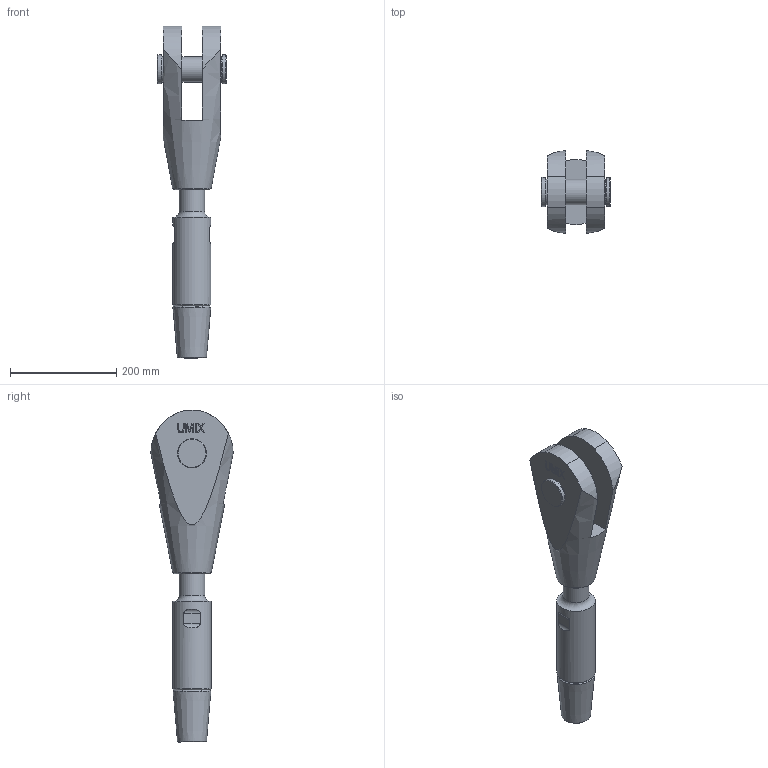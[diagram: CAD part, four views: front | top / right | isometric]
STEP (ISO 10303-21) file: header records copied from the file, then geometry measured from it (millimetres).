
FILE_DESCRIPTION(/* description */ (''),/* implementation_level */ '2;1');
FILE_NAME(/* name */ 'G:\Engineering\700 CAD\Internet-PX-1-step-igs-dxf\520-GAK-ADA-Arbeitsdateien\520-048-GAK-ADA.stp',/* time_stamp */ '2020-07-03T13:10:21+02:00',/* author */ ('schwarz'),/* organization */ (''),/* preprocessor_version */ 'ST-DEVELOPER v16.1',/* originating_system */ 'Autodesk Inventor 2016',/* authorisation */ '');
FILE_SCHEMA (('AUTOMOTIVE_DESIGN { 1 0 10303 214 3 1 1 }'));
Length unit declared in the file: centimetre
Products named in the file (1): 520-048-GAK-ADA-Kunde
Bounding box: 130.44 x 155.43 x 626.24 mm (x, y, z)
Volume: 3484868 mm3; surface area: 274432.4 mm2
Topology: 2 solids, 4 shells, 197 faces, 509 edges, 338 vertices
Faces by surface type: plane 139, cylinder 22, bspline 21, cone 14, torus 1
Full cylindrical faces by diameter (mm): 10.106 x1, 12 x1, 13.5 x1, 23.12 x1, 48 x2, 50.5 x1, 51 x2, 55 x2, 72 x1
Entity records: 6164 total; most frequent: CARTESIAN_POINT 1425, ORIENTED_EDGE 942, DIRECTION 808, EDGE_CURVE 471, LINE 356, VECTOR 356, VERTEX_POINT 327, EDGE_LOOP 248
